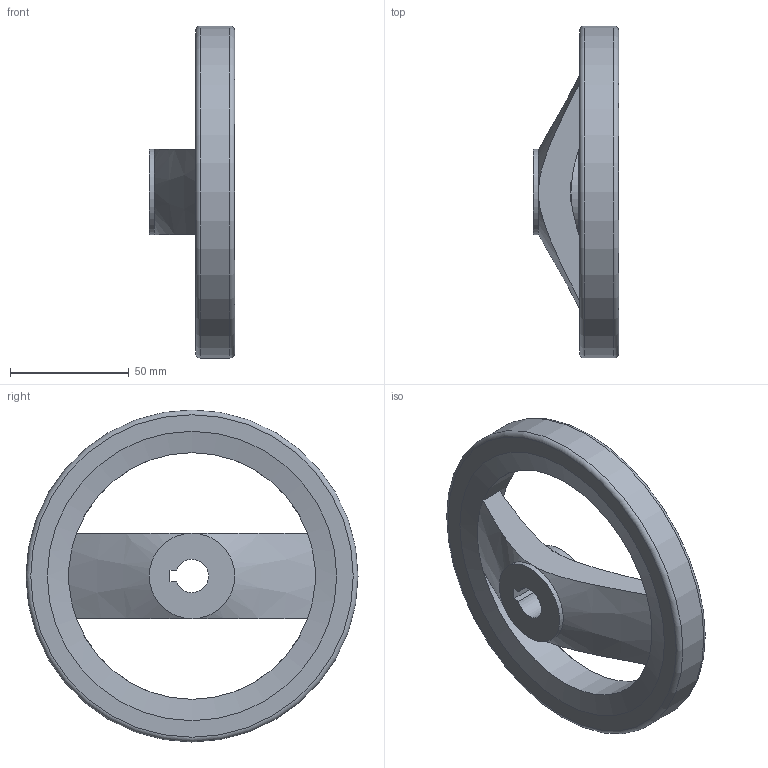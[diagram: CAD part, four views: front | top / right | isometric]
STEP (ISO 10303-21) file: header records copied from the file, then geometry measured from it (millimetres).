
FILE_DESCRIPTION( ( 'STEP AP203' ), '1' );
FILE_NAME( 'C:/Temp/Ganter_Step_05_03_2020/data/1_3/gn_324/gn_324_k/gn_324_k_a/Handwheel, matt black GN 324-140-K14-A.stp', '2020-03-05T10:32:59', ( 'License CC BY-ND 4.0' ), ( 'CADENAS' ), ' ', 'PARTsolutions', ' ' );
FILE_SCHEMA( ( 'CONFIG_CONTROL_DESIGN' ) );
Length unit declared in the file: millimetre
Products named in the file (1): _Handwheel, matt black GN 324-140-K14-A
Bounding box: 36 x 140 x 140 mm (x, y, z)
Volume: 158256 mm3; surface area: 35863.7 mm2
Topology: 1 solids, 1 shells, 22 faces, 52 edges, 30 vertices
Faces by surface type: plane 9, cone 6, cylinder 5, torus 2
Full cylindrical faces by diameter (mm): 36 x2, 104 x1, 140 x1
Entity records: 752 total; most frequent: CARTESIAN_POINT 231, DIRECTION 102, ORIENTED_EDGE 86, AXIS2_PLACEMENT_3D 44, EDGE_CURVE 43, EDGE_LOOP 34, VERTEX_POINT 29, FACE_OUTER_BOUND 28
